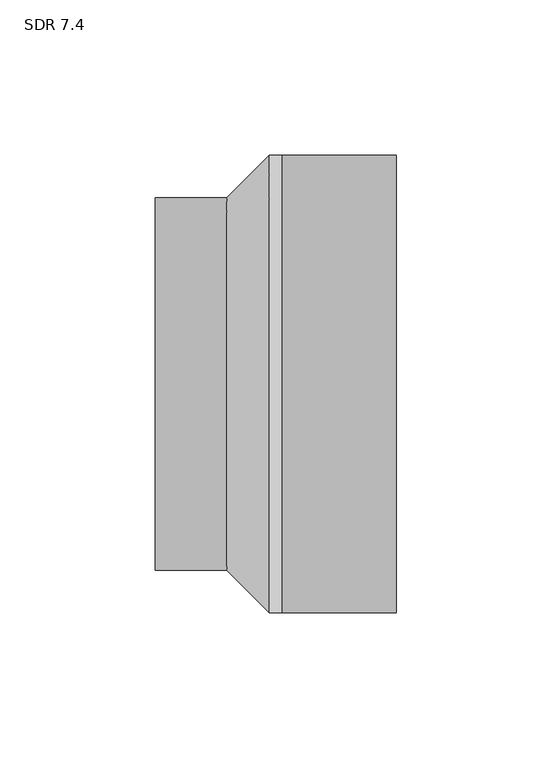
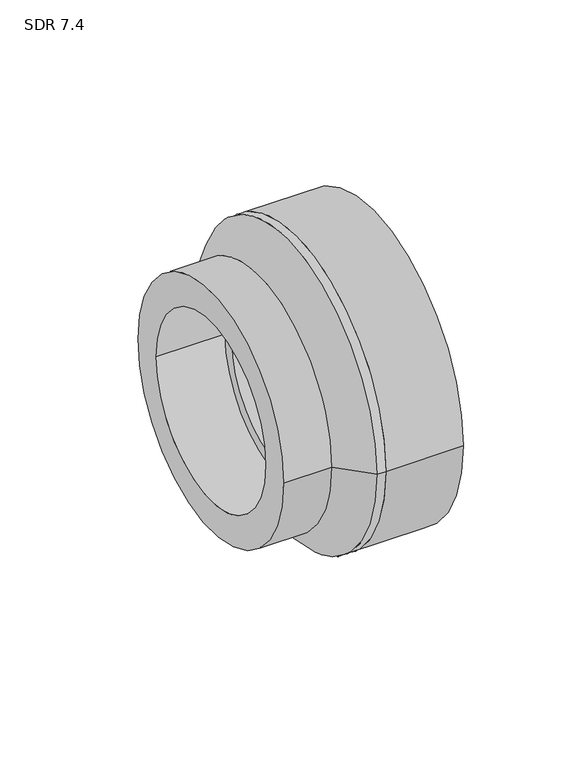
"""IFC4 building model written with IfcOpenShell, lengths in millimetres: pipe fitting geometry, Aquatherm - Reducing Coupling Combined - METRIC : SDR 7.4."""

from ifc_helpers import new_model, si_unit, point, frame, origin, origin_2d, place, context, project, spatial, polyline, circle_curve, trimmed, segment, composite_curve, outline, extrude, source, transform, mapped, element, save
from ifc_brep_helpers import plane_surface, cylinder_surface, revolved_surface, advanced_brep


def sdr_7_4_33fecc40(model_context):
    return source(origin(), model_context, "Body", "SolidModel", [
        advanced_brep(
        [(-4.064, 38.86, 0.0), (-4.064, -38.86, 0.0), (4.064, -38.86, 0.0), (4.064, 38.86, 0.0), (4.064, -73.533, 0.0), (4.064, 73.533, 0.0), (0.0, -73.533, 0.0), (0.0, 73.533, 0.0), (-13.589, -59.944, 0.0), (-13.589, 59.944, 0.0), (-36.576, 59.944, 0.0), (-36.576, -59.944, 0.0), (-36.576, 44.958, 0.0), (-36.576, -44.958, 0.0), (-4.064, -44.958, 0.0), (-4.064, 44.958, 0.0)],
        [
            (0, 1, circle_curve(frame((-4.064, 0.0, 0.0), z_axis=(-1.0, 0.0, 0.0), x_axis=(0.0, -1.0, 0.0)), 38.86)),
            (1, 2),
            (2, 3, circle_curve(frame((4.064, 0.0, 0.0), z_axis=(1.0, 0.0, 0.0), x_axis=(0.0, -1.0, 0.0)), 38.86)),
            (3, 0),
            (1, 0, circle_curve(frame((-4.064, 0.0, 0.0), z_axis=(-1.0, 0.0, 0.0), x_axis=(0.0, -1.0, 0.0)), 38.86)),
            (3, 2, circle_curve(frame((4.064, 0.0, 0.0), z_axis=(1.0, 0.0, 0.0), x_axis=(0.0, -1.0, 0.0)), 38.86)),
            (2, 4),
            (4, 5, circle_curve(frame((4.064, 0.0, 0.0), z_axis=(1.0, 0.0, 0.0), x_axis=(0.0, -1.0, 0.0)), 73.533)),
            (5, 3),
            (5, 4, circle_curve(frame((4.064, 0.0, 0.0), z_axis=(1.0, 0.0, 0.0), x_axis=(0.0, -1.0, 0.0)), 73.533)),
            (4, 6),
            (6, 7, circle_curve(frame((0.0, 0.0, 0.0), z_axis=(1.0, 0.0, 0.0), x_axis=(0.0, -1.0, 0.0)), 73.533)),
            (7, 5),
            (7, 6, circle_curve(frame((0.0, 0.0, 0.0), z_axis=(1.0, 0.0, 0.0), x_axis=(0.0, -1.0, 0.0)), 73.533)),
            (6, 8),
            (8, 9, circle_curve(frame((-13.589, 0.0, 0.0), z_axis=(1.0, 0.0, 0.0), x_axis=(0.0, -1.0, 0.0)), 59.944)),
            (9, 7),
            (9, 8, circle_curve(frame((-13.589, 0.0, 0.0), z_axis=(1.0, 0.0, 0.0), x_axis=(0.0, -1.0, 0.0)), 59.944)),
            (10, 11, circle_curve(frame((-36.576, 0.0, 0.0), z_axis=(-1.0, 0.0, 0.0), x_axis=(0.0, -1.0, 0.0)), 59.944)),
            (11, 10, circle_curve(frame((-36.576, 0.0, 0.0), z_axis=(-1.0, 0.0, 0.0), x_axis=(0.0, -1.0, 0.0)), 59.944)),
            (12, 13, circle_curve(frame((-36.576, 0.0, 0.0), z_axis=(1.0, 0.0, 0.0), x_axis=(0.0, -1.0, 0.0)), 44.958)),
            (13, 12, circle_curve(frame((-36.576, 0.0, 0.0), z_axis=(1.0, 0.0, 0.0), x_axis=(0.0, -1.0, 0.0)), 44.958)),
            (13, 14),
            (14, 15, circle_curve(frame((-4.064, 0.0, 0.0), z_axis=(1.0, 0.0, 0.0), x_axis=(0.0, -1.0, 0.0)), 44.958)),
            (15, 12),
            (15, 14, circle_curve(frame((-4.064, 0.0, 0.0), z_axis=(1.0, 0.0, 0.0), x_axis=(0.0, -1.0, 0.0)), 44.958)),
            (10, 9),
            (8, 11),
            (0, 15),
            (14, 1),
        ],
        [
            revolved_surface(polyline([(4.063999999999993, -38.86, 0.0), (-4.063999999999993, -38.86, 0.0)]), (71.12, 0.0, 0.0), (1.0, 0.0, 0.0)),
            plane_surface(frame((4.064, 0.0, 0.0), z_axis=(1.0, 0.0, 0.0), x_axis=(0.0, -1.0, 0.0))),
            cylinder_surface(frame((71.12, 0.0, 0.0), z_axis=(1.0, 0.0, 0.0), x_axis=(0.0, -1.0, 0.0)), 73.533),
            revolved_surface(polyline([(-13.589, -59.944, 0.0), (0.0, -73.533, 0.0)]), (71.12, 0.0, 0.0), (1.0, 0.0, 0.0)),
            plane_surface(frame((-36.576, -44.958, 0.0), z_axis=(-1.0, 0.0, 0.0), x_axis=(0.0, 0.0, -1.0))),
            revolved_surface(polyline([(-4.064, -44.958, 0.0), (-36.576, -44.958, 0.0)]), (-4.064, 0.0, 0.0), (1.0, 0.0, 0.0)),
            cylinder_surface(frame((0.0, 0.0, 0.0), z_axis=(-1.0, 0.0, 0.0), x_axis=(0.0, -1.0, 0.0)), 59.944),
            plane_surface(frame((-4.064, 0.0, 0.0), z_axis=(-1.0, 0.0, 0.0), x_axis=(0.0, -1.0, 0.0))),
        ],
        [
            (0, [[1, 2, 3, 4]]),
            (0, [[-2, 5, -4, 6]]),
            (1, [[-3, 7, 8, 9]]),
            (1, [[-6, -9, 10, -7]]),
            (2, [[-8, 11, 12, 13]]),
            (2, [[-10, -13, 14, -11]]),
            (3, [[-12, 15, 16, 17]]),
            (3, [[-14, -17, 18, -15]]),
            (4, [[19, 20], [21, 22]]),
            (5, [[-22, 23, 24, 25]]),
            (5, [[-21, -25, 26, -23]]),
            (6, [[-19, 27, -16, 28]]),
            (6, [[-20, -28, -18, -27]]),
            (7, [[-1, 29, -24, 30]]),
            (7, [[-5, -30, -26, -29]]),
        ],
    ),
        extrude(outline(composite_curve([segment(trimmed(circle_curve(origin_2d(), 73.533), [point((73.533, 0.0))], [point((-73.533, 0.0))], False, "CARTESIAN"), True, "CONTINUOUS"), segment(trimmed(circle_curve(origin_2d(), 73.533), [point((-73.533, 0.0))], [point((73.533, 0.0))], False, "CARTESIAN"), True, "CONTINUOUS")], self_intersect=False), holes=[composite_curve([segment(trimmed(circle_curve(origin_2d(), 54.991), [point((54.991, 0.0))], [point((-54.991, 0.0))], True, "CARTESIAN"), True, "CONTINUOUS"), segment(trimmed(circle_curve(origin_2d(), 54.991), [point((-54.991, 0.0))], [point((54.991, 0.0))], True, "CARTESIAN"), True, "CONTINUOUS")], self_intersect=False)]), frame((4.064, 0.0, 0.0), z_axis=(1.0, 0.0, 0.0), x_axis=(0.0, 1.0, 0.0)), (0.0, 0.0, 1.0), 36.83),
    ])


if __name__ == "__main__":
    model = new_model("IFC4")
    model_context = context("Model", 3, world=origin())
    ifc_project = project(units=[si_unit("LENGTHUNIT", "METRE", prefix="MILLI")], contexts=[model_context])
    site = spatial("IfcSite", under=ifc_project)
    building = spatial("IfcBuilding", under=site)
    placement = place(None, origin())
    sdr_7_4_shape = sdr_7_4_33fecc40(model_context)
    element("IfcPipeFitting", 1, ObjectType="Aquatherm - Reducing Coupling Combined - METRIC : SDR 7.4", at=placement, inside=building, context=model_context, shape_type="MappedRepresentation", body=[
        mapped(sdr_7_4_shape, transform((0.0, 0.0, 0.0), x_axis=(1.0, 0.0, 0.0), y_axis=(0.0, 1.0, 0.0), z_axis=(0.0, 0.0, 1.0))),
    ])
    save(model, "model.ifc")
